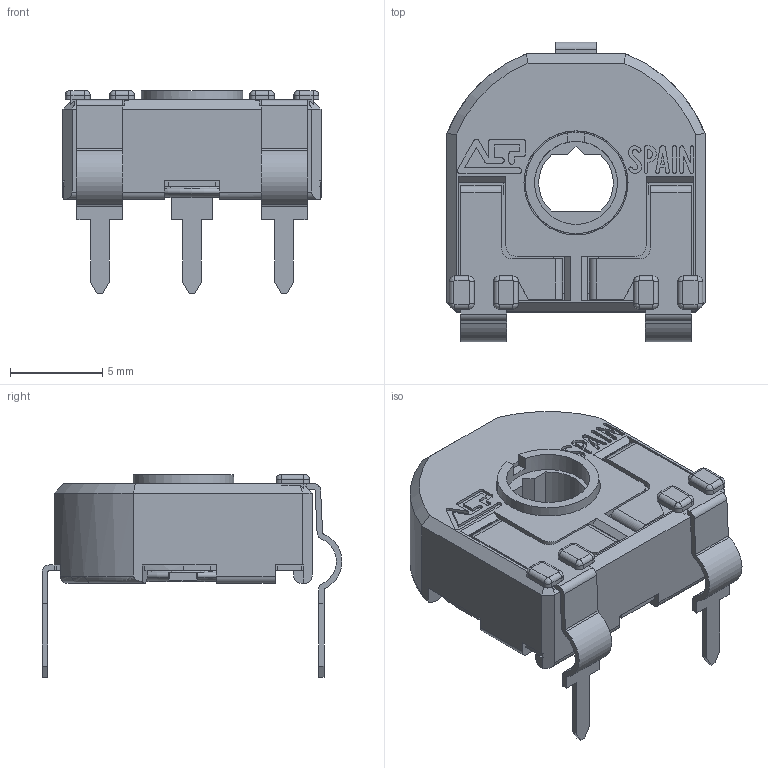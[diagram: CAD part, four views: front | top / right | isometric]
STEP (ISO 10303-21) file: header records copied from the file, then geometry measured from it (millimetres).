
FILE_DESCRIPTION(/* description */ (''),/* implementation_level */ '2;1');
FILE_NAME(/* name */ 'C:\Users\CEM\Desktop\ENVIAR\TRANSICION 3D CATALOGOS\CAR14KVR15.stp',/* time_stamp */ '2025-09-22T10:02:09+02:00',/* author */ ('CEM'),/* organization */ (''),/* preprocessor_version */ 'ST-DEVELOPER v17',/* originating_system */ 'Autodesk Inventor 2018',/* authorisation */ '');
FILE_SCHEMA (('AUTOMOTIVE_DESIGN { 1 0 10303 214 3 1 1 }'));
Length unit declared in the file: millimetre
Products named in the file (1): CAR14KVR15
Bounding box: 14 x 16.27 x 11 mm (x, y, z)
Volume: 549.5 mm3; surface area: 1562 mm2
Topology: 1 solids, 1 shells, 606 faces, 1769 edges, 1135 vertices
Faces by surface type: plane 407, cylinder 156, bspline 20, cone 14, torus 9
Full cylindrical faces by diameter (mm): 1.2 x2, 4.5 x1, 5.5 x1, 5.65 x1, 6.88 x1
Entity records: 20809 total; most frequent: CARTESIAN_POINT 3835, ORIENTED_EDGE 3538, DIRECTION 3336, EDGE_CURVE 1769, LINE 1300, VECTOR 1300, VERTEX_POINT 1135, AXIS2_PLACEMENT_3D 1018
